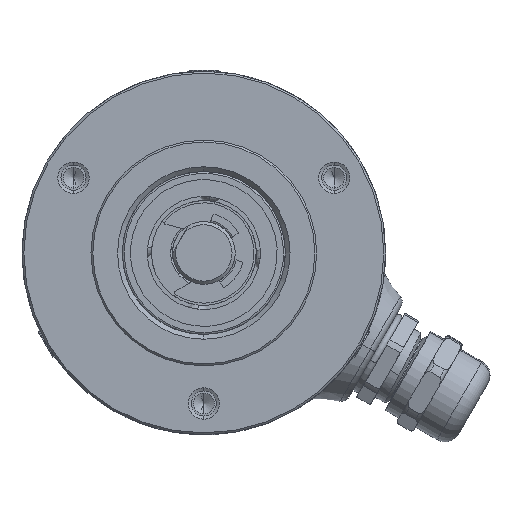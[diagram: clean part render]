
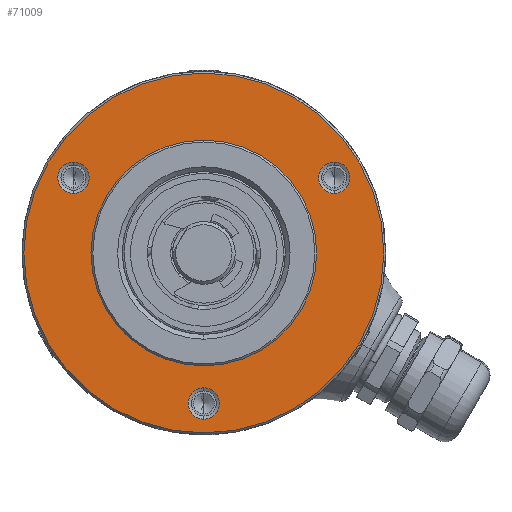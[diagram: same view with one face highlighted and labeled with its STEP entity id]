
A CAD part, front view. The second image highlights one B-rep face of the part: STEP entity #71009.
In plain terms, the highlighted planar face has unit normal (0, -1, 0).
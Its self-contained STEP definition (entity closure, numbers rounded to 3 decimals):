
#22 = CARTESIAN_POINT ( 'NONE',  ( 0., -12., -17.983 ) ) ;
#950 = FACE_OUTER_BOUND ( 'NONE', #94514, .T. ) ;
#3786 = FACE_BOUND ( 'NONE', #51305, .T. ) ;
#4879 = EDGE_CURVE ( 'NONE', #68529, #46112, #89914, .T. ) ;
#5909 = EDGE_CURVE ( 'NONE', #21957, #70557, #71373, .T. ) ;
#6340 = EDGE_CURVE ( 'NONE', #62771, #18864, #31767, .T. ) ;
#6890 = DIRECTION ( 'NONE',  ( 0., 1., 0. ) ) ;
#7350 = CARTESIAN_POINT ( 'NONE',  ( -20.785, -12., 14.5 ) ) ;
#7421 = CARTESIAN_POINT ( 'NONE',  ( 0., -12., -28.7 ) ) ;
#11476 = VERTEX_POINT ( 'NONE', #24705 ) ;
#14485 = DIRECTION ( 'NONE',  ( 0., -1., 0. ) ) ;
#15188 = CARTESIAN_POINT ( 'NONE',  ( 0., -12., -17.983 ) ) ;
#17323 = CARTESIAN_POINT ( 'NONE',  ( 0., -12., 17.983 ) ) ;
#18761 = AXIS2_PLACEMENT_3D ( 'NONE', #106689, #52724, #115735 ) ;
#18864 = VERTEX_POINT ( 'NONE', #55524 ) ;
#19996 = ORIENTED_EDGE ( 'NONE', *, *, #5909, .F. ) ;
#21957 = VERTEX_POINT ( 'NONE', #115831 ) ;
#21979 = CARTESIAN_POINT ( 'NONE',  ( 0., -12., 0. ) ) ;
#22070 = FACE_BOUND ( 'NONE', #95410, .T. ) ;
#22972 = EDGE_LOOP ( 'NONE', ( #74725, #93430 ) ) ;
#24705 = CARTESIAN_POINT ( 'NONE',  ( 20.785, -12., 14.5 ) ) ;
#25663 = AXIS2_PLACEMENT_3D ( 'NONE', #68468, #14485, #77522 ) ;
#26003 = CARTESIAN_POINT ( 'NONE',  ( 0., -12., 0. ) ) ;
#29734 = CARTESIAN_POINT ( 'NONE',  ( 20.785, -12., 9.5 ) ) ;
#31045 = DIRECTION ( 'NONE',  ( 0., 0., 1. ) ) ;
#31767 = CIRCLE ( 'NONE', #25663, 2.5 ) ;
#32130 = VERTEX_POINT ( 'NONE', #39567 ) ;
#34293 = VERTEX_POINT ( 'NONE', #29734 ) ;
#35033 = DIRECTION ( 'NONE',  ( 0., 0., 1. ) ) ;
#36388 = AXIS2_PLACEMENT_3D ( 'NONE', #92686, #38631, #101698 ) ;
#38631 = DIRECTION ( 'NONE',  ( 0., 1., 0. ) ) ;
#39567 = CARTESIAN_POINT ( 'NONE',  ( 0., -12., -21.5 ) ) ;
#39680 = EDGE_CURVE ( 'NONE', #70557, #21957, #50587, .T. ) ;
#40383 = ORIENTED_EDGE ( 'NONE', *, *, #39680, .F. ) ;
#40783 = AXIS2_PLACEMENT_3D ( 'NONE', #15188, #6890, #69940 ) ;
#41317 = CARTESIAN_POINT ( 'NONE',  ( 0., -12., -24. ) ) ;
#41556 = DIRECTION ( 'NONE',  ( 0., -1., 0. ) ) ;
#42047 = CIRCLE ( 'NONE', #74977, 2.5 ) ;
#42401 = CARTESIAN_POINT ( 'NONE',  ( 0., -12., -24. ) ) ;
#44842 = DIRECTION ( 'NONE',  ( 0., -1., 0. ) ) ;
#45068 = ORIENTED_EDGE ( 'NONE', *, *, #4879, .T. ) ;
#45794 = EDGE_CURVE ( 'NONE', #46112, #68529, #96268, .T. ) ;
#45976 = CIRCLE ( 'NONE', #84496, 2.5 ) ;
#46112 = VERTEX_POINT ( 'NONE', #17323 ) ;
#47641 = DIRECTION ( 'NONE',  ( 0., -1., 0. ) ) ;
#48627 = EDGE_CURVE ( 'NONE', #74609, #32130, #87068, .T. ) ;
#49559 = EDGE_CURVE ( 'NONE', #11476, #34293, #74137, .T. ) ;
#50433 = DIRECTION ( 'NONE',  ( 0., 0., -1. ) ) ;
#50587 = CIRCLE ( 'NONE', #100106, 28.7 ) ;
#51305 = EDGE_LOOP ( 'NONE', ( #84776, #110999 ) ) ;
#51509 = DIRECTION ( 'NONE',  ( 0., 0., -1. ) ) ;
#52724 = DIRECTION ( 'NONE',  ( 0., 1., 0. ) ) ;
#55524 = CARTESIAN_POINT ( 'NONE',  ( -20.785, -12., 9.5 ) ) ;
#57795 = ORIENTED_EDGE ( 'NONE', *, *, #49559, .F. ) ;
#59785 = CIRCLE ( 'NONE', #82767, 2.5 ) ;
#60872 = PLANE ( 'NONE',  #40783 ) ;
#62771 = VERTEX_POINT ( 'NONE', #7350 ) ;
#67307 = EDGE_CURVE ( 'NONE', #18864, #62771, #59785, .T. ) ;
#68468 = CARTESIAN_POINT ( 'NONE',  ( -20.785, -12., 12. ) ) ;
#68529 = VERTEX_POINT ( 'NONE', #22 ) ;
#69940 = DIRECTION ( 'NONE',  ( 0., 0., 1. ) ) ;
#70065 = FACE_BOUND ( 'NONE', #22972, .T. ) ;
#70557 = VERTEX_POINT ( 'NONE', #7421 ) ;
#71009 = ADVANCED_FACE ( 'NONE', ( #72862, #3786, #70065, #950, #22070 ), #60872, .F. ) ;
#71373 = CIRCLE ( 'NONE', #72454, 28.7 ) ;
#72454 = AXIS2_PLACEMENT_3D ( 'NONE', #26003, #89057, #35033 ) ;
#72862 = FACE_BOUND ( 'NONE', #74201, .T. ) ;
#74137 = CIRCLE ( 'NONE', #89660, 2.5 ) ;
#74201 = EDGE_LOOP ( 'NONE', ( #98576, #57795 ) ) ;
#74609 = VERTEX_POINT ( 'NONE', #78907 ) ;
#74725 = ORIENTED_EDGE ( 'NONE', *, *, #67307, .F. ) ;
#74977 = AXIS2_PLACEMENT_3D ( 'NONE', #42401, #105465, #51509 ) ;
#76648 = ORIENTED_EDGE ( 'NONE', *, *, #45794, .T. ) ;
#77522 = DIRECTION ( 'NONE',  ( 0., 0., -1. ) ) ;
#78907 = CARTESIAN_POINT ( 'NONE',  ( 0., -12., -26.5 ) ) ;
#82767 = AXIS2_PLACEMENT_3D ( 'NONE', #98829, #44842, #107923 ) ;
#84496 = AXIS2_PLACEMENT_3D ( 'NONE', #95578, #41556, #104600 ) ;
#84776 = ORIENTED_EDGE ( 'NONE', *, *, #48627, .F. ) ;
#85070 = DIRECTION ( 'NONE',  ( 0., 1., 0. ) ) ;
#87068 = CIRCLE ( 'NONE', #114511, 2.5 ) ;
#87983 = EDGE_CURVE ( 'NONE', #32130, #74609, #42047, .T. ) ;
#89057 = DIRECTION ( 'NONE',  ( 0., 1., 0. ) ) ;
#89660 = AXIS2_PLACEMENT_3D ( 'NONE', #101583, #47641, #110700 ) ;
#89914 = CIRCLE ( 'NONE', #18761, 17.983 ) ;
#92686 = CARTESIAN_POINT ( 'NONE',  ( 0., -12., 0. ) ) ;
#93159 = EDGE_CURVE ( 'NONE', #34293, #11476, #45976, .T. ) ;
#93430 = ORIENTED_EDGE ( 'NONE', *, *, #6340, .F. ) ;
#94514 = EDGE_LOOP ( 'NONE', ( #19996, #40383 ) ) ;
#95410 = EDGE_LOOP ( 'NONE', ( #76648, #45068 ) ) ;
#95578 = CARTESIAN_POINT ( 'NONE',  ( 20.785, -12., 12. ) ) ;
#96268 = CIRCLE ( 'NONE', #36388, 17.983 ) ;
#98576 = ORIENTED_EDGE ( 'NONE', *, *, #93159, .F. ) ;
#98829 = CARTESIAN_POINT ( 'NONE',  ( -20.785, -12., 12. ) ) ;
#100106 = AXIS2_PLACEMENT_3D ( 'NONE', #21979, #85070, #31045 ) ;
#101583 = CARTESIAN_POINT ( 'NONE',  ( 20.785, -12., 12. ) ) ;
#101698 = DIRECTION ( 'NONE',  ( 0., 0., 1. ) ) ;
#104376 = DIRECTION ( 'NONE',  ( 0., -1., 0. ) ) ;
#104600 = DIRECTION ( 'NONE',  ( 0., 0., -1. ) ) ;
#105465 = DIRECTION ( 'NONE',  ( 0., -1., 0. ) ) ;
#106689 = CARTESIAN_POINT ( 'NONE',  ( 0., -12., 0. ) ) ;
#107923 = DIRECTION ( 'NONE',  ( 0., 0., -1. ) ) ;
#110700 = DIRECTION ( 'NONE',  ( 0., 0., -1. ) ) ;
#110999 = ORIENTED_EDGE ( 'NONE', *, *, #87983, .F. ) ;
#114511 = AXIS2_PLACEMENT_3D ( 'NONE', #41317, #104376, #50433 ) ;
#115735 = DIRECTION ( 'NONE',  ( 0., 0., 1. ) ) ;
#115831 = CARTESIAN_POINT ( 'NONE',  ( 0., -12., 28.7 ) ) ;
